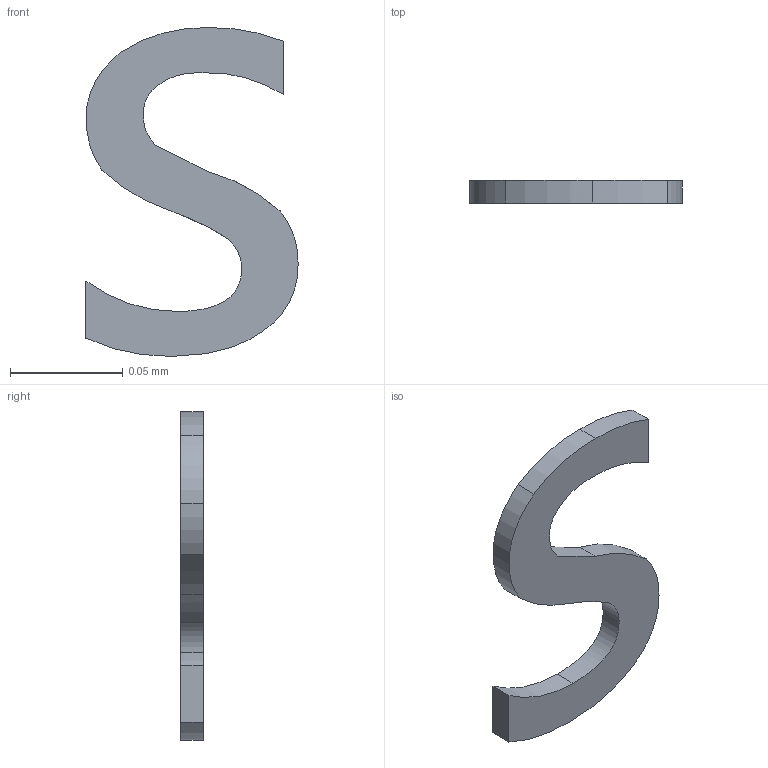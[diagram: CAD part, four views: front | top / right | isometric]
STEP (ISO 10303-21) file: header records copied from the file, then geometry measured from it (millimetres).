
FILE_DESCRIPTION(/* description */ ('STEP AP242 Edition 2','CAx-IF Rec.Pracs.---Representation and Presentation of Product Manufacturing Information (PMI)---4.0---2014-10-13','CAx-IF Rec.Pracs.---3D Tessellated Geometry---0.4---2014-09-14','2;1','CAx-IF Rec.Pracs.---User Defined Attributes---1.5---2016-08-15'),/* implementation_level */ '2;1');
FILE_NAME(/* name */ 'Assembly 1 - SW-TH_3P-L5.8_WSGT-3P-CC~SW-TH_3P-L5.8_WSGT-3P-CC~nxQB (4)',/* time_stamp */ '2026-04-02T09:55:27Z',/* author */ (''),/* organization */ (''),/* preprocessor_version */ 'ST-DEVELOPER v20',/* originating_system */ 'ONSHAPE BY PTC INC, 1.212',/* authorisation */ ' ');
FILE_SCHEMA (('AP242_MANAGED_MODEL_BASED_3D_ENGINEERING_MIM_LF { 1 0 10303 442 3 1 4 }'));
Length unit declared in the file: metre
Products named in the file (1): SW-TH_3P-L5.8_WSGT-3P-CC~SW-TH_3P-L5.8_WSGT-3P-CC~nxQB
Bounding box: 0.09 x 0.01 x 0.15 mm (x, y, z)
Volume: 0 mm3; surface area: 0 mm2
Topology: 1 solids, 1 shells, 23 faces, 63 edges, 42 vertices
Faces by surface type: cylinder 15, plane 5, bspline 2, sphere 1
Entity records: 959 total; most frequent: CARTESIAN_POINT 197, ORIENTED_EDGE 126, DIRECTION 121, EDGE_CURVE 63, AXIS2_PLACEMENT_3D 54, VERTEX_POINT 42, CIRCLE 32, PRESENTATION_STYLE_ASSIGNMENT 24
